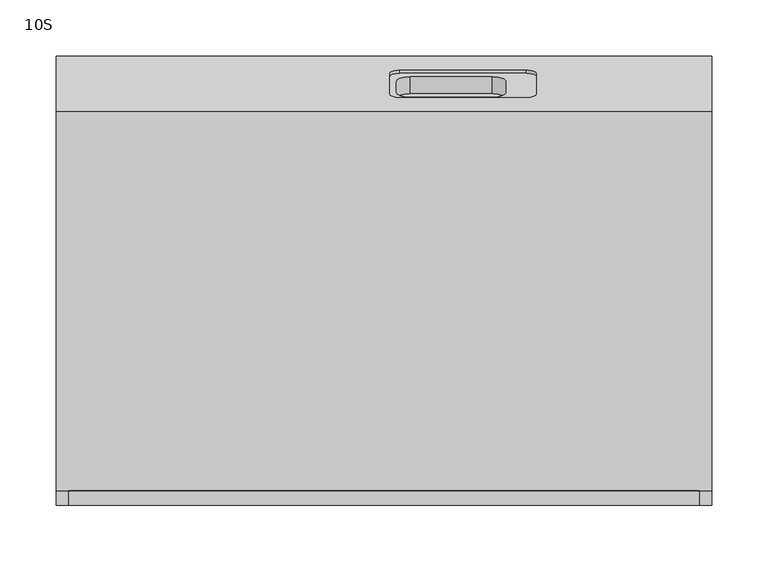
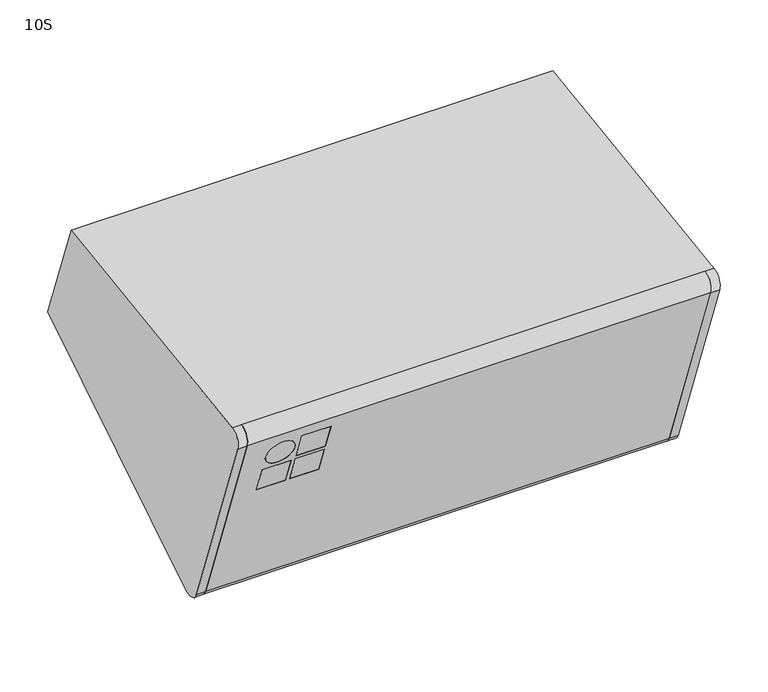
"""IFC4 building model written with IfcOpenShell, lengths in millimetres: proxy geometry, d&b xS-Series 10S Point Source : 10S."""

from ifc_helpers import new_model, si_unit, point, frame, frame_2d, origin, place, context, project, spatial, polyline, circle_curve, trimmed, segment, composite_curve, outline, extrude, source, transform, mapped, element, save
from ifc_brep_helpers import plane_surface, cylinder_surface, revolved_surface, advanced_brep


def proxy_10s_79aa2483(model_context):
    return source(origin(), model_context, "Body", "SolidModel", [
        extrude(outline(composite_curve([segment(trimmed(circle_curve(frame_2d((-57.31043, -155.4528161)), 10.0), [point((-51.1302129, -163.3144263))], [point((-66.7073562, -158.8730175))], False, "CARTESIAN"), True, "CONTINUOUS"), segment(polyline([(-66.7073562, -158.8730175), (-153.2224067, 78.8251302)]), True, "CONTINUOUS"), segment(trimmed(circle_curve(frame_2d((-143.8254805, 82.2453316)), 10.0), [point((-153.2224067, 78.8251302))], [point((-144.1445052, 92.2402415))], False, "CARTESIAN"), True, "CONTINUOUS"), segment(polyline([(-144.1445052, 92.2402415), (-51.1302129, -163.3144263)]), True, "CONTINUOUS")], self_intersect=False)), frame((-279.0, 0.0, 0.0), z_axis=(1.0, 0.0, 0.0), x_axis=(0.0, 1.0, 0.0)), (0.0, 0.0, 1.0), 558.0),
        advanced_brep(
        [(-175.0, -140.8198627, 30.1303984), (-175.0, -136.1213996, 31.8404991), (-210.0, -136.1213996, 31.8404991), (-210.0, -140.8198627, 30.1303984), (-210.0, -148.0921046, 64.7297408), (-210.0, -152.7905677, 63.0196401), (-175.0, -148.0921046, 64.7297408), (-175.0, -152.7905677, 63.0196401), (-175.0, -127.1390569, -7.4573064), (-175.0, -122.4405938, -5.7472057), (-210.0, -122.4405938, -5.7472057), (-210.0, -127.1390569, -7.4573064), (-210.0, -134.4112988, 27.142036), (-210.0, -139.1097619, 25.4319353), (-175.0, -134.4112988, 27.142036), (-175.0, -139.1097619, 25.4319353), (-215.0, -127.1390569, -7.4573064), (-215.0, -122.4405938, -5.7472057), (-250.0, -122.4405938, -5.7472057), (-250.0, -127.1390569, -7.4573064), (-250.0, -134.4112988, 27.142036), (-250.0, -139.1097619, 25.4319353), (-215.0, -134.4112988, 27.142036), (-215.0, -139.1097619, 25.4319353), (-250.0, -146.8052152, 46.5750193), (-250.0, -142.1067521, 48.28512), (-215.0, -142.1067521, 48.28512), (-215.0, -146.8052152, 46.5750193), (279.0, -157.9208698, 77.1150294), (279.0, -71.4058193, -160.5831182), (279.0, -49.3616411, -168.1735375), (279.0, -51.1302129, -163.3144263), (279.0, -66.7073562, -158.8730175), (279.0, -153.2224067, 78.8251302), (279.0, -144.1445052, 92.2402415), (279.0, -145.913077, 97.0993526), (-279.0, -157.9208698, 77.1150294), (-279.0, -145.913077, 97.0993526), (-279.0, -144.1445052, 92.2402415), (-279.0, -153.2224067, 78.8251302), (-279.0, -66.7073562, -158.8730175), (-279.0, -51.1302129, -163.3144263), (-279.0, -49.3616411, -168.1735375), (-279.0, -71.4058193, -160.5831182)],
        [
            (0, 1),
            (1, 2),
            (2, 3),
            (3, 0),
            (2, 4),
            (4, 5),
            (5, 3),
            (4, 6),
            (6, 7),
            (7, 5),
            (0, 7),
            (6, 1),
            (8, 9),
            (9, 10),
            (10, 11),
            (11, 8),
            (10, 12),
            (12, 13),
            (13, 11),
            (12, 14),
            (14, 15),
            (15, 13),
            (8, 15),
            (14, 9),
            (16, 17),
            (17, 18),
            (18, 19),
            (19, 16),
            (18, 20),
            (20, 21),
            (21, 19),
            (20, 22),
            (22, 23),
            (23, 21),
            (16, 23),
            (22, 17),
            (24, 25),
            (25, 26, circle_curve(frame((-232.5, -142.1067521, 48.28512), z_axis=(0.0, 0.9396926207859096, 0.3420201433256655), x_axis=(1.0, 0.0, 0.0)), 17.5)),
            (26, 27),
            (27, 24, circle_curve(frame((-232.5, -146.8052152, 46.5750193), z_axis=(0.0, -0.9396926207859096, -0.3420201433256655), x_axis=(1.0, 0.0, 0.0)), 17.5)),
            (24, 27, circle_curve(frame((-232.5, -146.8052152, 46.5750193), z_axis=(0.0, -0.9396926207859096, -0.3420201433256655), x_axis=(1.0, 0.0, 0.0)), 17.5)),
            (26, 25, circle_curve(frame((-232.5, -142.1067521, 48.28512), z_axis=(0.0, 0.9396926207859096, 0.3420201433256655), x_axis=(1.0, 0.0, 0.0)), 17.5)),
            (28, 29),
            (29, 30, circle_curve(frame((279.0, -57.31043, -155.4528161), z_axis=(1.0, 0.0, 0.0), x_axis=(0.0, -0.9396926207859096, -0.3420201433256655)), 15.0)),
            (30, 31),
            (31, 32, circle_curve(frame((279.0, -57.31043, -155.4528161), z_axis=(-1.0, 0.0, 0.0), x_axis=(0.0, -0.9396926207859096, -0.3420201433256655)), 10.0)),
            (32, 33),
            (33, 34, circle_curve(frame((279.0, -143.8254805, 82.2453316), z_axis=(-1.0, 0.0, 0.0), x_axis=(0.0, -0.9396926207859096, -0.3420201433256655)), 10.0)),
            (34, 35),
            (35, 28, circle_curve(frame((279.0, -143.8254805, 82.2453316), z_axis=(1.0, 0.0, 0.0), x_axis=(0.0, -0.9396926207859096, -0.3420201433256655)), 15.0)),
            (36, 37, circle_curve(frame((-279.0, -143.8254805, 82.2453316), z_axis=(-1.0, 0.0, 0.0), x_axis=(0.0, -0.9396926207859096, -0.3420201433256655)), 15.0)),
            (37, 38),
            (38, 39, circle_curve(frame((-279.0, -143.8254805, 82.2453316), z_axis=(1.0, 0.0, 0.0), x_axis=(0.0, -0.9396926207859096, -0.3420201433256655)), 10.0)),
            (39, 40),
            (40, 41, circle_curve(frame((-279.0, -57.31043, -155.4528161), z_axis=(1.0, 0.0, 0.0), x_axis=(0.0, -0.9396926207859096, -0.3420201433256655)), 10.0)),
            (41, 42),
            (42, 43, circle_curve(frame((-279.0, -57.31043, -155.4528161), z_axis=(-1.0, 0.0, 0.0), x_axis=(0.0, -0.9396926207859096, -0.3420201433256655)), 15.0)),
            (43, 36),
            (28, 36),
            (43, 29),
            (42, 30),
            (41, 31),
            (40, 32),
            (39, 33),
            (38, 34),
            (37, 35),
        ],
        [
            plane_surface(frame((-210.0, -140.8198627, 30.1303984), z_axis=(0.0, -0.3420201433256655, 0.9396926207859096), x_axis=(0.0, 0.9396926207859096, 0.3420201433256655))),
            plane_surface(frame((-210.0, -152.7905677, 63.0196401), z_axis=(1.0000000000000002, 0.0, 0.0), x_axis=(0.0, 0.9396926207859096, 0.3420201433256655))),
            plane_surface(frame((-175.0, -152.7905677, 63.0196401), z_axis=(0.0, 0.3420201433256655, -0.9396926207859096), x_axis=(0.0, 0.9396926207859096, 0.3420201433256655))),
            plane_surface(frame((-175.0, -140.8198627, 30.1303984), z_axis=(-1.0000000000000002, 0.0, 0.0), x_axis=(0.0, 0.9396926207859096, 0.3420201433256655))),
            plane_surface(frame((-210.0, -127.1390569, -7.4573064), z_axis=(0.0, -0.3420201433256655, 0.9396926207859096), x_axis=(0.0, 0.9396926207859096, 0.3420201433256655))),
            plane_surface(frame((-210.0, -139.1097619, 25.4319353), z_axis=(1.0000000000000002, 0.0, 0.0), x_axis=(0.0, 0.9396926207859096, 0.3420201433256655))),
            plane_surface(frame((-175.0, -139.1097619, 25.4319353), z_axis=(0.0, 0.3420201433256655, -0.9396926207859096), x_axis=(0.0, 0.9396926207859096, 0.3420201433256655))),
            plane_surface(frame((-175.0, -127.1390569, -7.4573064), z_axis=(-1.0000000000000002, 0.0, 0.0), x_axis=(0.0, 0.9396926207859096, 0.3420201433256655))),
            plane_surface(frame((-250.0, -127.1390569, -7.4573064), z_axis=(0.0, -0.3420201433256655, 0.9396926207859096), x_axis=(0.0, 0.9396926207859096, 0.3420201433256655))),
            plane_surface(frame((-250.0, -139.1097619, 25.4319353), z_axis=(1.0000000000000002, 0.0, 0.0), x_axis=(0.0, 0.9396926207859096, 0.3420201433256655))),
            plane_surface(frame((-215.0, -139.1097619, 25.4319353), z_axis=(0.0, 0.3420201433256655, -0.9396926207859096), x_axis=(0.0, 0.9396926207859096, 0.3420201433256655))),
            plane_surface(frame((-215.0, -127.1390569, -7.4573064), z_axis=(-1.0000000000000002, 0.0, 0.0), x_axis=(0.0, 0.9396926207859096, 0.3420201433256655))),
            revolved_surface(polyline([(-215.0, -146.80521519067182, 46.57501927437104), (-215.0, -142.10675209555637, 48.28511998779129)]), (-232.5, -116.0281283, 57.7769628), (0.0, -0.9396926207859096, -0.3420201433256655)),
            plane_surface(frame((279.0, -71.4058193, -160.5831182), z_axis=(1.0000000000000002, 0.0, 0.0), x_axis=(0.0, 0.3420201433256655, -0.9396926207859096))),
            plane_surface(frame((-279.0, -71.4058193, -160.5831182), z_axis=(-1.0000000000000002, 0.0, 0.0), x_axis=(0.0, -0.3420201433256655, 0.9396926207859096))),
            plane_surface(frame((279.0, -157.9208698, 77.1150294), z_axis=(0.0, -0.9396926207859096, -0.3420201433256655), x_axis=(-1.0, 0.0, 0.0))),
            cylinder_surface(frame((-279.0, -57.31043, -155.4528161), z_axis=(1.0, 0.0, 0.0), x_axis=(0.0, -0.9396926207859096, -0.3420201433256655)), 15.0),
            plane_surface(frame((279.0, -49.3616411, -168.1735375), z_axis=(0.0, 0.9396926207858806, 0.34202014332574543), x_axis=(-1.0, 0.0, 0.0))),
            revolved_surface(polyline([(-279.0, -66.70735620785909, -158.87301753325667), (279.0, -66.70735620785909, -158.87301753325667)]), (-279.0, -57.31043, -155.4528161), (-1.0, 0.0, 0.0)),
            plane_surface(frame((279.0, -66.7073562, -158.8730175), z_axis=(0.0, 0.9396926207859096, 0.3420201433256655), x_axis=(-1.0, 0.0, 0.0))),
            revolved_surface(polyline([(-279.0, -153.22240670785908, 78.82513016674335), (279.0, -153.22240670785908, 78.82513016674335)]), (-279.0, -143.8254805, 82.2453316), (-1.0, 0.0, 0.0)),
            plane_surface(frame((279.0, -144.1445052, 92.2402415), z_axis=(0.0, 0.9396926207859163, 0.342020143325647), x_axis=(-1.0, 0.0, 0.0))),
            cylinder_surface(frame((-279.0, -143.8254805, 82.2453316), z_axis=(1.0, 0.0, 0.0), x_axis=(0.0, -0.9396926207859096, -0.3420201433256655)), 15.0),
        ],
        [
            (0, [[1, 2, 3, 4]]),
            (1, [[-3, 5, 6, 7]]),
            (2, [[-6, 8, 9, 10]]),
            (3, [[-1, 11, -9, 12]]),
            (4, [[13, 14, 15, 16]]),
            (5, [[-15, 17, 18, 19]]),
            (6, [[-18, 20, 21, 22]]),
            (7, [[-13, 23, -21, 24]]),
            (8, [[25, 26, 27, 28]]),
            (9, [[-27, 29, 30, 31]]),
            (10, [[-30, 32, 33, 34]]),
            (11, [[-25, 35, -33, 36]]),
            (12, [[37, 38, 39, 40]]),
            (12, [[-37, 41, -39, 42]]),
            (13, [[43, 44, 45, 46, 47, 48, 49, 50]]),
            (14, [[51, 52, 53, 54, 55, 56, 57, 58]]),
            (15, [[-43, 59, -58, 60], [-4, -7, -10, -11], [-16, -19, -22, -23], [-28, -31, -34, -35], [-40, -41]]),
            (16, [[-44, -60, -57, 61]]),
            (17, [[-45, -61, -56, 62]]),
            (18, [[-46, -62, -55, 63]]),
            (19, [[-47, -63, -54, 64], [-2, -12, -8, -5], [-14, -24, -20, -17], [-26, -36, -32, -29], [-38, -42]]),
            (20, [[-48, -64, -53, 65]]),
            (21, [[-49, -65, -52, 66]]),
            (22, [[-50, -66, -51, -59]]),
        ],
    ),
        extrude(outline(polyline([(0.0, -35.0), (0.0, 0.0), (5.0, 0.0), (5.0, -35.0), (0.0, -35.0)])), frame((-210.0, -140.8198627, 30.1303984), z_axis=(0.0, -0.3420201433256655, 0.9396926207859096), x_axis=(0.0, 0.9396926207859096, 0.3420201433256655)), (0.0, 0.0, 1.0), 35.0),
        extrude(outline(polyline([(0.0, -35.0), (0.0, 0.0), (5.0, 0.0), (5.0, -35.0), (0.0, -35.0)])), frame((-210.0, -127.1390569, -7.4573064), z_axis=(0.0, -0.3420201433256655, 0.9396926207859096), x_axis=(0.0, 0.9396926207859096, 0.3420201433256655)), (0.0, 0.0, 1.0), 35.0),
        extrude(outline(polyline([(0.0, -35.0), (0.0, 0.0), (5.0, 0.0), (5.0, -35.0), (0.0, -35.0)])), frame((-250.0, -127.1390569, -7.4573064), z_axis=(0.0, -0.3420201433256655, 0.9396926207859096), x_axis=(0.0, 0.9396926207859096, 0.3420201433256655)), (0.0, 0.0, 1.0), 35.0),
        extrude(outline(composite_curve([segment(trimmed(circle_curve(frame_2d((-12.4999999, -57.5)), 17.5), [point((-12.4999999, -75.0))], [point((-12.4999999, -40.0))], False, "CARTESIAN"), True, "CONTINUOUS"), segment(trimmed(circle_curve(frame_2d((-12.4999999, -57.5)), 17.5), [point((-12.4999999, -40.0))], [point((-12.4999999, -75.0))], False, "CARTESIAN"), True, "CONTINUOUS")], self_intersect=False)), frame((-175.0, -151.080467, 58.321177), z_axis=(0.0, 0.9396926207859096, 0.3420201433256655), x_axis=(0.0, -0.3420201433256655, 0.9396926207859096)), (0.0, 0.0, 1.0), 5.0),
        advanced_brep(
        [(-290.0, -145.913077, 97.0993526), (-290.0, 190.0806709, 144.3201944), (-290.0, 238.3774745, 11.6258171), (-290.0, -49.3616411, -168.1735375), (-290.0, -71.4058193, -160.5831182), (-290.0, -157.9208698, 77.1150294), (290.0, -49.3616411, -168.1735375), (290.0, 238.3774745, 11.6258171), (290.0, 190.0806709, 144.3201944), (290.0, -145.913077, 97.0993526), (290.0, -157.9208698, 77.1150294), (290.0, -71.4058193, -160.5831182), (126.0, 199.4392898, 109.8361871), (135.0, 202.5174711, 101.3789535), (135.0, 220.3025186, 52.5149372), (126.0, 223.3806998, 44.0577036), (14.0, 223.3806998, 44.0577036), (5.0, 220.3025186, 52.5149372), (5.0, 202.5174711, 101.3789535), (14.0, 199.4392898, 109.8361871), (23.0304679, 202.5278917, 101.350323), (11.0304679, 206.6321335, 90.0740116), (11.0304679, 216.1878562, 63.8198791), (23.0304679, 220.2920979, 52.5435676), (95.9695321, 220.2920979, 52.5435676), (107.9695321, 216.1878562, 63.8198791), (107.9695321, 206.6321335, 90.0740116), (95.9695321, 202.5278917, 101.350323), (126.0, 202.2583677, 110.8622475), (135.0, 205.336549, 102.4050139), (135.0, 223.1215964, 53.5409976), (126.0, 226.1997777, 45.083764), (14.0, 226.1997777, 45.083764), (5.0, 223.1215964, 53.5409976), (5.0, 205.336549, 102.4050139), (14.0, 202.2583677, 110.8622475), (11.0304679, 191.5970515, 84.6016893), (23.0304679, 187.4928098, 95.8780007), (95.9695321, 187.4928098, 95.8780007), (107.9695321, 191.5970515, 84.6016893), (107.9695321, 201.1527743, 58.3475568), (95.9695321, 205.257016, 47.0712454), (23.0304679, 205.257016, 47.0712454), (11.0304679, 201.1527743, 58.3475568), (279.0, -49.3616411, -168.1735375), (279.0, -71.4058193, -160.5831182), (279.0, -157.9208698, 77.1150294), (279.0, -145.913077, 97.0993526), (-279.0, -145.913077, 97.0993526), (-279.0, -157.9208698, 77.1150294), (-279.0, -71.4058193, -160.5831182), (-279.0, -49.3616411, -168.1735375)],
        [
            (0, 1),
            (1, 2),
            (2, 3),
            (3, 4, circle_curve(frame((-290.0, -57.31043, -155.4528161), z_axis=(-1.0, 0.0, 0.0), x_axis=(0.0, -0.9396926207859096, -0.3420201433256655)), 15.0)),
            (4, 5),
            (5, 0, circle_curve(frame((-290.0, -143.8254805, 82.2453316), z_axis=(-1.0, 0.0, 0.0), x_axis=(0.0, -0.9396926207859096, -0.3420201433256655)), 15.0)),
            (6, 7),
            (7, 8),
            (8, 9),
            (9, 10, circle_curve(frame((290.0, -143.8254805, 82.2453316), z_axis=(1.0, 0.0, 0.0), x_axis=(0.0, -0.9396926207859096, -0.3420201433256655)), 15.0)),
            (10, 11),
            (11, 6, circle_curve(frame((290.0, -57.31043, -155.4528161), z_axis=(1.0, 0.0, 0.0), x_axis=(0.0, -0.9396926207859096, -0.3420201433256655)), 15.0)),
            (12, 13, circle_curve(frame((126.0, 202.5174711, 101.3789535), z_axis=(0.0, 0.9396926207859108, 0.34202014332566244), x_axis=(0.0, -0.34202014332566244, 0.9396926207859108)), 9.0)),
            (13, 14),
            (14, 15, circle_curve(frame((126.0, 220.3025186, 52.5149372), z_axis=(0.0, 0.9396926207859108, 0.34202014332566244), x_axis=(0.0, -0.34202014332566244, 0.9396926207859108)), 9.0)),
            (15, 16),
            (16, 17, circle_curve(frame((14.0, 220.3025186, 52.5149372), z_axis=(0.0, 0.9396926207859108, 0.34202014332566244), x_axis=(0.0, -0.34202014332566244, 0.9396926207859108)), 9.0)),
            (17, 18),
            (18, 19, circle_curve(frame((14.0, 202.5174711, 101.3789535), z_axis=(0.0, 0.9396926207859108, 0.34202014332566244), x_axis=(0.0, -0.34202014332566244, 0.9396926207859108)), 9.0)),
            (19, 12),
            (20, 21, circle_curve(frame((23.0304679, 206.6321335, 90.0740116), z_axis=(0.0, -0.9396926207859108, -0.34202014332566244), x_axis=(0.0, -0.34202014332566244, 0.9396926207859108)), 12.0)),
            (21, 22),
            (22, 23, circle_curve(frame((23.0304679, 216.1878562, 63.8198791), z_axis=(0.0, -0.9396926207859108, -0.34202014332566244), x_axis=(0.0, -0.34202014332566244, 0.9396926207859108)), 12.0)),
            (23, 24),
            (24, 25, circle_curve(frame((95.9695321, 216.1878562, 63.8198791), z_axis=(0.0, -0.9396926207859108, -0.34202014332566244), x_axis=(0.0, -0.34202014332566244, 0.9396926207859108)), 12.0)),
            (25, 26),
            (26, 27, circle_curve(frame((95.9695321, 206.6321335, 90.0740116), z_axis=(0.0, -0.9396926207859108, -0.34202014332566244), x_axis=(0.0, -0.34202014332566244, 0.9396926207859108)), 12.0)),
            (27, 20),
            (12, 28),
            (28, 29, circle_curve(frame((126.0, 205.336549, 102.4050139), z_axis=(0.0, 0.9396926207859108, 0.34202014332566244), x_axis=(0.0, -0.34202014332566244, 0.9396926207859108)), 9.0)),
            (29, 13),
            (29, 30),
            (30, 14),
            (30, 31, circle_curve(frame((126.0, 223.1215964, 53.5409976), z_axis=(0.0, 0.9396926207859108, 0.34202014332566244), x_axis=(0.0, -0.34202014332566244, 0.9396926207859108)), 9.0)),
            (31, 15),
            (31, 32),
            (32, 16),
            (32, 33, circle_curve(frame((14.0, 223.1215964, 53.5409976), z_axis=(0.0, 0.9396926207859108, 0.34202014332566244), x_axis=(0.0, -0.34202014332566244, 0.9396926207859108)), 9.0)),
            (33, 17),
            (33, 34),
            (34, 18),
            (34, 35, circle_curve(frame((14.0, 205.336549, 102.4050139), z_axis=(0.0, 0.9396926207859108, 0.34202014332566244), x_axis=(0.0, -0.34202014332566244, 0.9396926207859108)), 9.0)),
            (35, 19),
            (35, 28),
            (36, 37, circle_curve(frame((23.0304679, 191.5970515, 84.6016893), z_axis=(0.0, 0.9396926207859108, 0.34202014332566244), x_axis=(0.0, -0.34202014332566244, 0.9396926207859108)), 12.0)),
            (37, 38),
            (38, 39, circle_curve(frame((95.9695321, 191.5970515, 84.6016893), z_axis=(0.0, 0.9396926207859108, 0.34202014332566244), x_axis=(0.0, -0.34202014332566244, 0.9396926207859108)), 12.0)),
            (39, 40),
            (40, 41, circle_curve(frame((95.9695321, 201.1527743, 58.3475568), z_axis=(0.0, 0.9396926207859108, 0.34202014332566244), x_axis=(0.0, -0.34202014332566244, 0.9396926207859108)), 12.0)),
            (41, 42),
            (42, 43, circle_curve(frame((23.0304679, 201.1527743, 58.3475568), z_axis=(0.0, 0.9396926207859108, 0.34202014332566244), x_axis=(0.0, -0.34202014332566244, 0.9396926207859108)), 12.0)),
            (43, 36),
            (44, 45, circle_curve(frame((279.0, -57.31043, -155.4528161), z_axis=(-1.0, 0.0, 0.0), x_axis=(0.0, -0.9396926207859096, -0.3420201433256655)), 15.0)),
            (45, 46),
            (46, 47, circle_curve(frame((279.0, -143.8254805, 82.2453316), z_axis=(-1.0, 0.0, 0.0), x_axis=(0.0, -0.9396926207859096, -0.3420201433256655)), 15.0)),
            (47, 44),
            (48, 49, circle_curve(frame((-279.0, -143.8254805, 82.2453316), z_axis=(1.0, 0.0, 0.0), x_axis=(0.0, -0.9396926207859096, -0.3420201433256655)), 15.0)),
            (49, 50),
            (50, 51, circle_curve(frame((-279.0, -57.31043, -155.4528161), z_axis=(1.0, 0.0, 0.0), x_axis=(0.0, -0.9396926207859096, -0.3420201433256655)), 15.0)),
            (51, 48),
            (0, 48),
            (48, 47),
            (47, 9),
            (8, 1),
            (7, 2),
            (6, 44),
            (44, 51),
            (51, 3),
            (36, 21),
            (20, 37),
            (27, 38),
            (26, 39),
            (25, 40),
            (24, 41),
            (23, 42),
            (22, 43),
            (46, 10),
            (45, 11),
            (5, 49),
            (4, 50),
        ],
        [
            plane_surface(frame((-290.0, 178.5307313, 142.6969563), z_axis=(-1.0000000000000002, 0.0, 0.0), x_axis=(0.0, 0.9902680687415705, 0.1391731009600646))),
            plane_surface(frame((290.0, 178.5307313, 142.6969563), z_axis=(1.0000000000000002, 0.0, 0.0), x_axis=(0.0, -0.9902680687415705, -0.1391731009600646))),
            plane_surface(frame((126.0, 199.4392898, 109.8361871), z_axis=(0.0, 0.9396926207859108, 0.34202014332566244), x_axis=(-1.0, 0.0, 0.0))),
            revolved_surface(polyline([(126.0, 202.25836769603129, 110.86224752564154), (126.0, 199.43928980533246, 109.83618708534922)]), (126.0, 202.5174711, 101.3789535), (0.0, 0.9396926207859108, 0.34202014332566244)),
            plane_surface(frame((135.0, 205.336549, 102.4050139), z_axis=(-1.0000000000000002, 0.0, 0.0), x_axis=(0.0, -0.9396926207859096, -0.3420201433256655))),
            revolved_surface(polyline([(126.0, 220.04341511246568, 61.998231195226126), (126.0, 217.2243372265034, 60.97217075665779)]), (126.0, 220.3025186, 52.5149372), (0.0, 0.9396926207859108, 0.34202014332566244)),
            plane_surface(frame((126.0, 226.1997777, 45.083764), z_axis=(0.0, -0.3420201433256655, 0.9396926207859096), x_axis=(0.0, -0.9396926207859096, -0.3420201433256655))),
            revolved_surface(polyline([(14.0, 220.04341511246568, 61.998231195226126), (14.0, 217.2243372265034, 60.97217075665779)]), (14.0, 220.3025186, 52.5149372), (0.0, 0.9396926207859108, 0.34202014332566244)),
            plane_surface(frame((5.0, 223.1215964, 53.5409976), z_axis=(1.0000000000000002, 0.0, 0.0), x_axis=(0.0, -0.9396926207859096, -0.3420201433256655))),
            revolved_surface(polyline([(14.0, 202.25836769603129, 110.86224752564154), (14.0, 199.43928980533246, 109.83618708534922)]), (14.0, 202.5174711, 101.3789535), (0.0, 0.9396926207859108, 0.34202014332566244)),
            plane_surface(frame((14.0, 202.2583677, 110.8622475), z_axis=(0.0, 0.3420201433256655, -0.9396926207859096), x_axis=(0.0, -0.9396926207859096, -0.3420201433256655))),
            plane_surface(frame((23.0304679, 187.4928098, 95.8780007), z_axis=(0.0, 0.9396926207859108, 0.34202014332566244), x_axis=(-1.0, 0.0, 0.0))),
            plane_surface(frame((279.0, -157.9208698, 77.1150294), z_axis=(-1.0000000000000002, 0.0, 0.0), x_axis=(0.0, -0.3420201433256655, 0.9396926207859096))),
            plane_surface(frame((-279.0, -157.9208698, 77.1150294), z_axis=(1.0000000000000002, 0.0, 0.0), x_axis=(0.0, 0.3420201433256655, -0.9396926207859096))),
            plane_surface(frame((-290.0, -145.913077, 97.0993526), z_axis=(0.0, -0.1391731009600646, 0.9902680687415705), x_axis=(1.0, 0.0, 0.0))),
            plane_surface(frame((-290.0, 190.0806709, 144.3201944), z_axis=(0.0, 0.9396926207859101, 0.3420201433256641), x_axis=(1.0, 0.0, 0.0))),
            plane_surface(frame((-290.0, 238.3774745, 11.6258171), z_axis=(0.0, 0.5299192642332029, -0.8480480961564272), x_axis=(1.0, 0.0, 0.0))),
            plane_surface(frame((-290.0, -49.3616411, -168.1735375), z_axis=(0.0, -0.9396926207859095, -0.3420201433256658), x_axis=(1.0, 0.0, 0.0))),
            revolved_surface(polyline([(23.0304679, 202.52789177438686, 101.35032306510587), (23.0304679, 187.49280978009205, 95.87800074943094)]), (23.0304679, 191.5970515, 84.6016893), (0.0, 0.9396926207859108, 0.34202014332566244)),
            plane_surface(frame((23.0304679, 205.3469696, 102.3763835), z_axis=(0.0, 0.3420201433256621, -0.9396926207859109), x_axis=(0.0, -0.9396926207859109, -0.3420201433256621))),
            revolved_surface(polyline([(95.9695321, 202.52789177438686, 101.35032306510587), (95.9695321, 187.49280978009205, 95.87800074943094)]), (95.9695321, 191.5970515, 84.6016893), (0.0, 0.9396926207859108, 0.34202014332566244)),
            plane_surface(frame((107.9695321, 209.4512113, 91.100072), z_axis=(-1.0000000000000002, 0.0, 0.0), x_axis=(0.0, -0.9396926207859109, -0.3420201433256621))),
            revolved_surface(polyline([(95.9695321, 212.08361448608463, 75.09619053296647), (95.9695321, 197.0485325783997, 69.62386824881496)]), (95.9695321, 201.1527743, 58.3475568), (0.0, 0.9396926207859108, 0.34202014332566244)),
            plane_surface(frame((95.9695321, 223.1111758, 53.5696281), z_axis=(0.0, -0.3420201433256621, 0.9396926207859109), x_axis=(0.0, -0.9396926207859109, -0.3420201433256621))),
            revolved_surface(polyline([(23.0304679, 212.08361448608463, 75.09619053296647), (23.0304679, 197.0485325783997, 69.62386824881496)]), (23.0304679, 201.1527743, 58.3475568), (0.0, 0.9396926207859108, 0.34202014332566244)),
            plane_surface(frame((11.0304679, 219.0069341, 64.8459395), z_axis=(1.0000000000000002, 0.0, 0.0), x_axis=(0.0, -0.9396926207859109, -0.3420201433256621))),
            cylinder_surface(frame((279.0, -143.8254805, 82.2453316), z_axis=(1.0, 0.0, 0.0), x_axis=(0.0, -0.9396926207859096, -0.3420201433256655)), 15.0),
            plane_surface(frame((290.0, -157.9208698, 77.1150294), z_axis=(0.0, -0.9396926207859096, -0.3420201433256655), x_axis=(-1.0, 0.0, 0.0))),
            cylinder_surface(frame((279.0, -57.31043, -155.4528161), z_axis=(1.0, 0.0, 0.0), x_axis=(0.0, -0.9396926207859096, -0.3420201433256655)), 15.0),
            cylinder_surface(frame((-290.0, -143.8254805, 82.2453316), z_axis=(1.0, 0.0, 0.0), x_axis=(0.0, -0.9396926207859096, -0.3420201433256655)), 15.0),
            plane_surface(frame((-279.0, -157.9208698, 77.1150294), z_axis=(0.0, -0.9396926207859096, -0.3420201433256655), x_axis=(-1.0, 0.0, 0.0))),
            cylinder_surface(frame((-290.0, -57.31043, -155.4528161), z_axis=(1.0, 0.0, 0.0), x_axis=(0.0, -0.9396926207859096, -0.3420201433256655)), 15.0),
        ],
        [
            (0, [[1, 2, 3, 4, 5, 6]]),
            (1, [[7, 8, 9, 10, 11, 12]]),
            (2, [[13, 14, 15, 16, 17, 18, 19, 20], [21, 22, 23, 24, 25, 26, 27, 28]]),
            (3, [[-13, 29, 30, 31]]),
            (4, [[-14, -31, 32, 33]]),
            (5, [[-15, -33, 34, 35]]),
            (6, [[-16, -35, 36, 37]]),
            (7, [[-17, -37, 38, 39]]),
            (8, [[-18, -39, 40, 41]]),
            (9, [[-19, -41, 42, 43]]),
            (10, [[-20, -43, 44, -29]]),
            (11, [[45, 46, 47, 48, 49, 50, 51, 52]]),
            (12, [[53, 54, 55, 56]]),
            (13, [[57, 58, 59, 60]]),
            (14, [[-1, 61, 62, 63, -9, 64]]),
            (15, [[-2, -64, -8, 65], [-30, -44, -42, -40, -38, -36, -34, -32]]),
            (16, [[-3, -65, -7, 66, 67, 68]]),
            (17, [[-56, -62, -60, -67]]),
            (18, [[-45, 69, -21, 70]]),
            (19, [[-46, -70, -28, 71]]),
            (20, [[-47, -71, -27, 72]]),
            (21, [[-48, -72, -26, 73]]),
            (22, [[-49, -73, -25, 74]]),
            (23, [[-50, -74, -24, 75]]),
            (24, [[-51, -75, -23, 76]]),
            (25, [[-52, -76, -22, -69]]),
            (26, [[-10, -63, -55, 77]]),
            (27, [[-11, -77, -54, 78]]),
            (28, [[-12, -78, -53, -66]]),
            (29, [[-57, -61, -6, 79]]),
            (30, [[-58, -79, -5, 80]]),
            (31, [[-59, -80, -4, -68]]),
        ],
    ),
    ])


if __name__ == "__main__":
    model = new_model("IFC4")
    model_context = context("Model", 3, world=origin())
    ifc_project = project(units=[si_unit("LENGTHUNIT", "METRE", prefix="MILLI")], contexts=[model_context])
    site = spatial("IfcSite", under=ifc_project)
    building = spatial("IfcBuilding", under=site)
    placement = place(None, origin())
    proxy_10s_shape = proxy_10s_79aa2483(model_context)
    element("IfcBuildingElementProxy", 1, Name="d&b xS-Series 10S Point Source : 10S", ObjectType="d&b xS-Series 10S Point Source : 10S", at=placement, inside=building, context=model_context, shape_type="MappedRepresentation", body=[
        mapped(proxy_10s_shape, transform((0.0, 0.0, 0.0), x_axis=(1.0, 0.0, 0.0), y_axis=(0.0, 1.0, 0.0), z_axis=(0.0, 0.0, 1.0))),
    ])
    save(model, "model.ifc")
